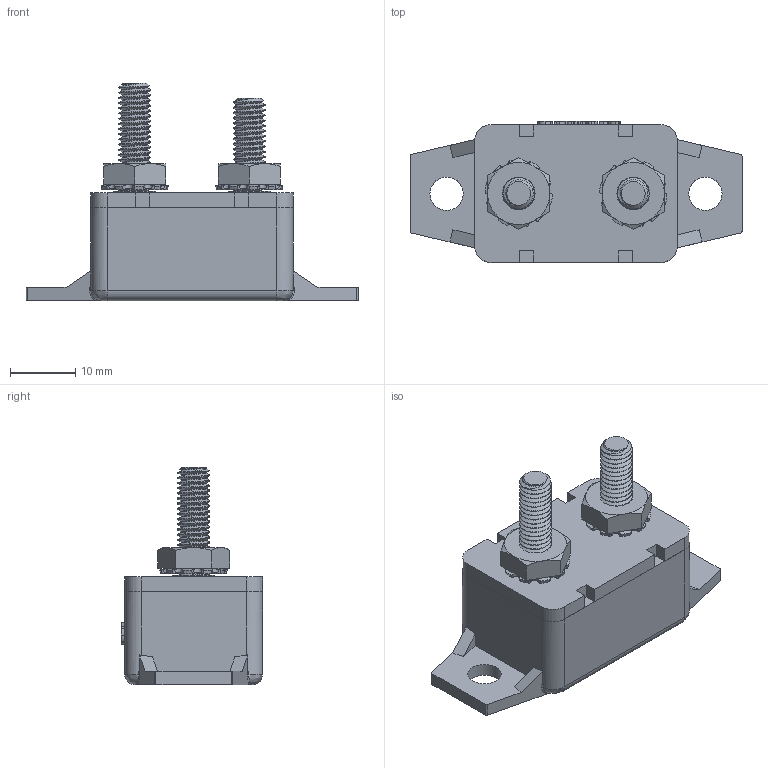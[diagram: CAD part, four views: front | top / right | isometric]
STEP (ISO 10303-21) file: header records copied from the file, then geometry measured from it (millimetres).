
FILE_DESCRIPTION(/* description */ (''),/* implementation_level */ '2;1');
FILE_NAME(/* name */ 'C:\Users\Hani\Desktop\work\ACBP-V\ACBP-V.stp',/* time_stamp */ '2021-08-06T13:06:04-07:00',/* author */ ('Hani'),/* organization */ (''),/* preprocessor_version */ 'ST-DEVELOPER v17',/* originating_system */ 'Autodesk Inventor 2019',/* authorisation */ '');
FILE_SCHEMA (('AUTOMOTIVE_DESIGN { 1 0 10303 214 3 1 1 }'));
Length unit declared in the file: inch
Products named in the file (4): ACBP-V; ACBP-V_1; THREADED ROD; HEX NUT WITH TOOTH WASHER
Assembly tree (5 placements, depth 2):
  ACBP-V
    ACBP-V_1
    THREADED ROD  x2
    HEX NUT WITH TOOTH WASHER  x2
Bounding box: 50.8 x 21.59 x 33.27 mm (x, y, z)
Volume: 12205.2 mm3; surface area: 6688.4 mm2
Topology: 8 solids, 8 shells, 482 faces, 1350 edges, 900 vertices
Faces by surface type: cylinder 164, plane 149, bspline 123, cone 46
Full cylindrical faces by diameter (mm): 3.795 x46, 3.967 x6, 4.826 x52, 5.08 x2, 6.35 x2, 6.413 x2
Entity records: 17686 total; most frequent: CARTESIAN_POINT 9358, ORIENTED_EDGE 1956, DIRECTION 1292, EDGE_CURVE 978, VERTEX_POINT 652, LINE 464, VECTOR 464, AXIS2_PLACEMENT_3D 414
